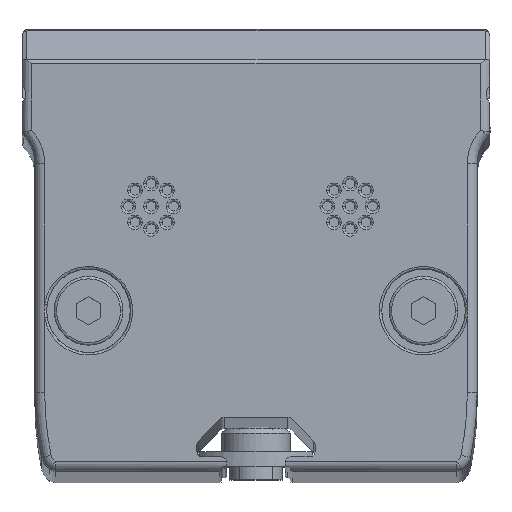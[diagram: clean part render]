
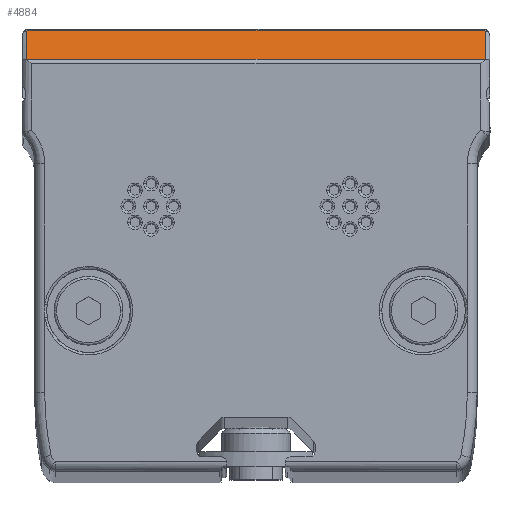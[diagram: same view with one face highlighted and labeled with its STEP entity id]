
A CAD part, top view. The second image highlights one B-rep face of the part: STEP entity #4884.
In plain terms, the highlighted planar face has unit normal (0, 0.858, 0.514).
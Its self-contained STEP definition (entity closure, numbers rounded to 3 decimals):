
#939 = CARTESIAN_POINT ( 'NONE',  ( -23.315, 22.387, 629.983 ) ) ;
#1881 = CARTESIAN_POINT ( 'NONE',  ( 23.315, 22.387, 629.983 ) ) ;
#2190 = VERTEX_POINT ( 'NONE', #2780 ) ;
#2414 = CARTESIAN_POINT ( 'NONE',  ( 23.215, 22.429, 629.914 ) ) ;
#2780 = CARTESIAN_POINT ( 'NONE',  ( 23.215, 22.429, 629.914 ) ) ;
#3031 = EDGE_CURVE ( 'NONE', #26375, #4446, #16224, .T. ) ;
#4065 = CARTESIAN_POINT ( 'NONE',  ( 23.82, 19.433, 634.907 ) ) ;
#4446 = VERTEX_POINT ( 'NONE', #24224 ) ;
#4884 = ADVANCED_FACE ( 'NONE', ( #15103 ), #12695, .F. ) ;
#5953 = DIRECTION ( 'NONE',  ( -1., 0., 0. ) ) ;
#6207 = CARTESIAN_POINT ( 'NONE',  ( 23.215, 22.429, 629.914 ) ) ;
#6221 = CARTESIAN_POINT ( 'NONE',  ( 23.215, 22.429, 629.914 ) ) ;
#6338 = CARTESIAN_POINT ( 'NONE',  ( 23.315, 22.329, 630.08 ) ) ;
#6463 = CARTESIAN_POINT ( 'NONE',  ( 23.274, 22.429, 629.914 ) ) ;
#6599 =( BOUNDED_CURVE ( )  B_SPLINE_CURVE ( 3, ( #6338, #1881, #6463, #6207 ),
 .UNSPECIFIED., .F., .T. ) 
 B_SPLINE_CURVE_WITH_KNOTS ( ( 4, 4 ),
 ( 4.712, 6.283 ),
 .UNSPECIFIED. ) 
 CURVE ( )  GEOMETRIC_REPRESENTATION_ITEM ( )  RATIONAL_B_SPLINE_CURVE ( ( 1., 0.805, 0.805, 1. ) ) 
 REPRESENTATION_ITEM ( '' )  );
#7116 = VERTEX_POINT ( 'NONE', #25232 ) ;
#7165 = CARTESIAN_POINT ( 'NONE',  ( -23.215, 22.429, 629.914 ) ) ;
#8518 = DIRECTION ( 'NONE',  ( 0., -0.857, -0.514 ) ) ;
#8779 = ORIENTED_EDGE ( 'NONE', *, *, #15868, .T. ) ;
#8919 = VERTEX_POINT ( 'NONE', #26352 ) ;
#9222 = ORIENTED_EDGE ( 'NONE', *, *, #25288, .T. ) ;
#9750 = CARTESIAN_POINT ( 'NONE',  ( -23.315, 22.329, 630.08 ) ) ;
#9783 = DIRECTION ( 'NONE',  ( 0., -0.514, 0.857 ) ) ;
#10138 = EDGE_CURVE ( 'NONE', #8919, #2190, #20583, .T. ) ;
#10184 = VECTOR ( 'NONE', #9783, 1000. ) ;
#10406 = ORIENTED_EDGE ( 'NONE', *, *, #25572, .T. ) ;
#11176 = CARTESIAN_POINT ( 'NONE',  ( 23.315, 19.287, 635.15 ) ) ;
#11239 = LINE ( 'NONE', #18012, #10184 ) ;
#11311 = DIRECTION ( 'NONE',  ( 0., 0.514, -0.857 ) ) ;
#11338 = CARTESIAN_POINT ( 'NONE',  ( 23.315, 22.329, 630.08 ) ) ;
#12148 = LINE ( 'NONE', #22697, #15202 ) ;
#12695 = PLANE ( 'NONE',  #22769 ) ;
#13015 = ORIENTED_EDGE ( 'NONE', *, *, #3031, .T. ) ;
#14452 = CARTESIAN_POINT ( 'NONE',  ( 23.215, 22.429, 629.914 ) ) ;
#15103 = FACE_OUTER_BOUND ( 'NONE', #23381, .T. ) ;
#15118 = ORIENTED_EDGE ( 'NONE', *, *, #10138, .T. ) ;
#15202 = VECTOR ( 'NONE', #5953, 1000. ) ;
#15339 = CARTESIAN_POINT ( 'NONE',  ( -23.315, 19.433, 634.907 ) ) ;
#15743 = EDGE_CURVE ( 'NONE', #2190, #7116, #12148, .T. ) ;
#15868 = EDGE_CURVE ( 'NONE', #4446, #23359, #19711, .T. ) ;
#16224 = LINE ( 'NONE', #4065, #17839 ) ;
#17645 = VERTEX_POINT ( 'NONE', #17903 ) ;
#17839 = VECTOR ( 'NONE', #19881, 1000. ) ;
#17846 = VECTOR ( 'NONE', #11311, 1000. ) ;
#17903 = CARTESIAN_POINT ( 'NONE',  ( -23.315, 22.329, 630.08 ) ) ;
#18012 = CARTESIAN_POINT ( 'NONE',  ( -23.315, 19.287, 635.15 ) ) ;
#18906 = CARTESIAN_POINT ( 'NONE',  ( 23.82, 19.287, 635.15 ) ) ;
#19027 = CARTESIAN_POINT ( 'NONE',  ( 23.215, 22.429, 629.914 ) ) ;
#19711 = LINE ( 'NONE', #11176, #17846 ) ;
#19870 = CARTESIAN_POINT ( 'NONE',  ( -23.274, 22.429, 629.914 ) ) ;
#19881 = DIRECTION ( 'NONE',  ( 1., 0., 0. ) ) ;
#19966 = ORIENTED_EDGE ( 'NONE', *, *, #24566, .T. ) ;
#20583 =( BOUNDED_CURVE ( )  B_SPLINE_CURVE ( 3, ( #19027, #6221, #14452, #2414 ),
 .UNSPECIFIED., .F., .F. ) 
 B_SPLINE_CURVE_WITH_KNOTS ( ( 4, 4 ),
 ( 0., 0. ),
 .UNSPECIFIED. ) 
 CURVE ( )  GEOMETRIC_REPRESENTATION_ITEM ( )  RATIONAL_B_SPLINE_CURVE ( ( 1., 1., 1., 1. ) ) 
 REPRESENTATION_ITEM ( '' )  );
#22697 = CARTESIAN_POINT ( 'NONE',  ( -23.215, 22.429, 629.914 ) ) ;
#22769 = AXIS2_PLACEMENT_3D ( 'NONE', #18906, #8518, #23356 ) ;
#23356 = DIRECTION ( 'NONE',  ( 0., 0.514, -0.857 ) ) ;
#23359 = VERTEX_POINT ( 'NONE', #11338 ) ;
#23381 = EDGE_LOOP ( 'NONE', ( #13015, #8779, #19966, #15118, #26392, #10406, #9222 ) ) ;
#24224 = CARTESIAN_POINT ( 'NONE',  ( 23.315, 19.433, 634.907 ) ) ;
#24566 = EDGE_CURVE ( 'NONE', #23359, #8919, #6599, .T. ) ;
#24911 =( BOUNDED_CURVE ( )  B_SPLINE_CURVE ( 3, ( #7165, #19870, #939, #9750 ),
 .UNSPECIFIED., .F., .F. ) 
 B_SPLINE_CURVE_WITH_KNOTS ( ( 4, 4 ),
 ( 0., 1.571 ),
 .UNSPECIFIED. ) 
 CURVE ( )  GEOMETRIC_REPRESENTATION_ITEM ( )  RATIONAL_B_SPLINE_CURVE ( ( 1., 0.805, 0.805, 1. ) ) 
 REPRESENTATION_ITEM ( '' )  );
#25232 = CARTESIAN_POINT ( 'NONE',  ( -23.215, 22.429, 629.914 ) ) ;
#25288 = EDGE_CURVE ( 'NONE', #17645, #26375, #11239, .T. ) ;
#25572 = EDGE_CURVE ( 'NONE', #7116, #17645, #24911, .T. ) ;
#26352 = CARTESIAN_POINT ( 'NONE',  ( 23.215, 22.429, 629.914 ) ) ;
#26375 = VERTEX_POINT ( 'NONE', #15339 ) ;
#26392 = ORIENTED_EDGE ( 'NONE', *, *, #15743, .T. ) ;
